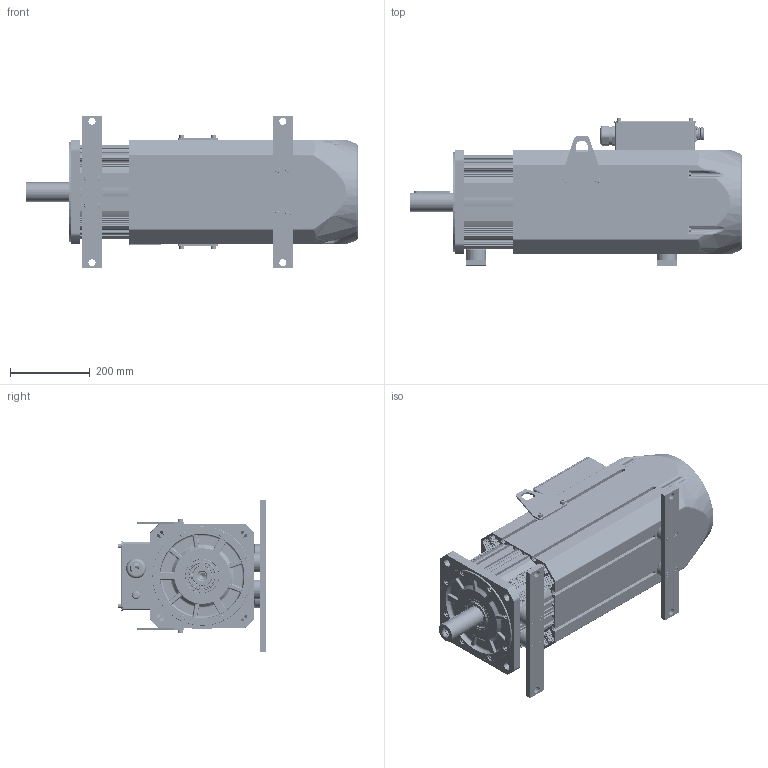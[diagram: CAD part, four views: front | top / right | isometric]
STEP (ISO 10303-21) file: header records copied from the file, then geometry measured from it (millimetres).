
FILE_DESCRIPTION((''),'2;1');
FILE_NAME('IMS20B-26M74D20C-4-R7F-A_ASM','2025-08-25T09:37:42',('0108698'),(''),'CREO PARAMETRIC BY PTC INC, 2019080','CREO PARAMETRIC BY PTC INC, 2019080','');
FILE_SCHEMA(('CONFIG_CONTROL_DESIGN'));
Products named in the file (72): 263T360_A; 631000; 80100320_AF0; 2630002_ASM; 2630003; 2630004; M6X160001; 50058-00152_AF0; 2630001_ASM; 263559_A; 2630005_ASM; 80100323_AF0; 263000_ASM; 50057-00008; 50036-00052; 50060-00059; 2630007_ASM; 2630009; 15000; 2630008_ASM; 50034-00098; _0001; 0001; 50051-00002; PDLD_4X12; 2630011; 00; M8X3000; 800; 0003; 0004; L990001; 2630010_ASM; 0005; ISO7045-M4X6-4_8; 0006; ISO7045-M4X8-4_8; WXJXDZ_40200-01002; 0007; _0002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
Assembly tree (142 placements, depth 4):
  IMS20B-26M74D20C-4-R7F-A_ASM
    2630001_ASM
      263T360_A
      631000
      2630002_ASM
        80100320_AF0
      2630003
      2630004
      M6X160001  x6
      50058-00152_AF0
    2630005_ASM
      263559_A
    263000_ASM
      80100323_AF0
    2630007_ASM
      50057-00008
      50036-00052
      50060-00059  x4
    2630008_ASM
      2630009
      15000
    50034-00098
    12116-00061_ASM
      _0001
      0001
      50051-00002
      PDLD_4X12  x4
      2630010_ASM
        2630011
        00  x3
        M8X3000  x6
        800  x6
        800  x6
        0003  x4
        0004
        L990001
      0005
      ISO7045-M4X6-4_8  x2
      0006
      ISO7045-M4X8-4_8
      WXJXDZ_40200-01002  x4
      0007
      _0002
      50060-00134  x4
      0008
      PG11
      PG36
    50034-00031  x2
    50034-00026  x2
    50058-00151_AF0
    50060-00071  x4
    50058-00152_AF1
    50060-00135  x4
    50058-00150
    50066-00059
    50060-00076  x4
    12118-00004_ASM
      80310919
      50034-00012
      80310916  x2
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Bounding box: 835 x 371 x 384 mm (x, y, z)
Volume: 16934100.8 mm3; surface area: 4114991.7 mm2
Topology: 148 solids, 260 shells, 7698 faces, 20084 edges, 12999 vertices
Faces by surface type: plane 3557, cylinder 2778, cone 505, bspline 481, torus 329, revolution 24, sphere 24
Entity records: 225969 total; most frequent: CARTESIAN_POINT 68066, DIRECTION 33371, ORIENTED_EDGE 32608, EDGE_CURVE 16436, AXIS2_PLACEMENT_3D 12081, VERTEX_POINT 10685, VECTOR 9185, LINE 9185
